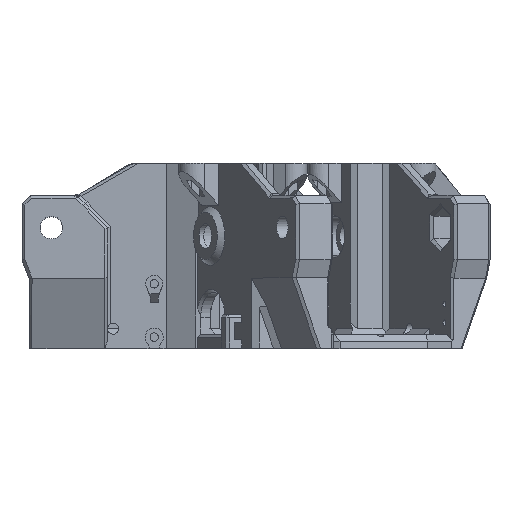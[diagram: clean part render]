
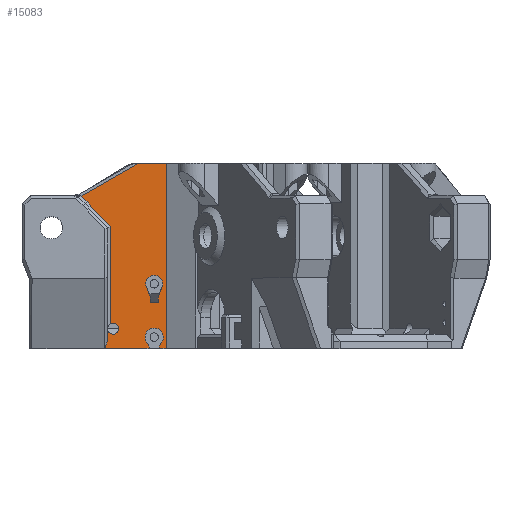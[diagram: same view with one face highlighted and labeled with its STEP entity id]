
A CAD part, top view. The second image highlights one B-rep face of the part: STEP entity #15083.
In plain terms, the highlighted planar face has unit normal (0, 0, 1).
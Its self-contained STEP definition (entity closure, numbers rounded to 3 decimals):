
#295=CIRCLE('',#16019,2.);
#296=CIRCLE('',#16020,3.25);
#297=CIRCLE('',#16021,3.);
#460=FACE_BOUND('',#2841,.T.);
#1104=PLANE('',#16018);
#1891=FACE_OUTER_BOUND('',#2840,.T.);
#2840=EDGE_LOOP('',(#13805,#13806,#13807,#13808,#13809,#13810,#13811,#13812,
#13813,#13814,#13815,#13816,#13817,#13818,#13819,#13820));
#2841=EDGE_LOOP('',(#13821,#13822,#13823,#13824,#13825,#13826));
#3457=LINE('',#22009,#5258);
#3461=LINE('',#22017,#5262);
#3945=LINE('',#23886,#5746);
#4163=LINE('',#24383,#5964);
#4444=LINE('',#25107,#6245);
#4448=LINE('',#25115,#6249);
#4461=LINE('',#25141,#6262);
#4488=LINE('',#25228,#6289);
#4491=LINE('',#25232,#6292);
#4709=LINE('',#25725,#6510);
#4713=LINE('',#25733,#6514);
#4717=LINE('',#25745,#6518);
#4719=LINE('',#25748,#6520);
#4720=LINE('',#25752,#6521);
#4721=LINE('',#25754,#6522);
#4722=LINE('',#25756,#6523);
#4723=LINE('',#25760,#6524);
#4724=LINE('',#25761,#6525);
#4725=LINE('',#25763,#6526);
#5258=VECTOR('',#16929,10.);
#5262=VECTOR('',#16933,10.);
#5746=VECTOR('',#17759,10.);
#5964=VECTOR('',#18187,10.);
#6245=VECTOR('',#18932,10.);
#6249=VECTOR('',#18938,10.);
#6262=VECTOR('',#18961,10.);
#6289=VECTOR('',#19006,10.);
#6292=VECTOR('',#19011,10.);
#6510=VECTOR('',#19493,10.);
#6514=VECTOR('',#19499,10.);
#6518=VECTOR('',#19511,10.);
#6520=VECTOR('',#19515,10.);
#6521=VECTOR('',#19520,10.);
#6522=VECTOR('',#19521,10.);
#6523=VECTOR('',#19522,10.);
#6524=VECTOR('',#19525,10.);
#6525=VECTOR('',#19526,10.);
#6526=VECTOR('',#19529,10.);
#6701=VERTEX_POINT('',#20061);
#7071=VERTEX_POINT('',#22006);
#7072=VERTEX_POINT('',#22008);
#7075=VERTEX_POINT('',#22014);
#7076=VERTEX_POINT('',#22016);
#7500=VERTEX_POINT('',#23883);
#7501=VERTEX_POINT('',#23885);
#7795=VERTEX_POINT('',#25104);
#7796=VERTEX_POINT('',#25106);
#7799=VERTEX_POINT('',#25114);
#7807=VERTEX_POINT('',#25140);
#7964=VERTEX_POINT('',#25722);
#7965=VERTEX_POINT('',#25724);
#7967=VERTEX_POINT('',#25730);
#7968=VERTEX_POINT('',#25732);
#7971=VERTEX_POINT('',#25742);
#7972=VERTEX_POINT('',#25744);
#7973=VERTEX_POINT('',#25750);
#7974=VERTEX_POINT('',#25753);
#7975=VERTEX_POINT('',#25755);
#7976=VERTEX_POINT('',#25757);
#7977=VERTEX_POINT('',#25759);
#8551=EDGE_CURVE('',#7072,#7071,#3457,.T.);
#8555=EDGE_CURVE('',#7076,#7075,#3461,.T.);
#9144=EDGE_CURVE('',#7501,#7500,#3945,.T.);
#9396=EDGE_CURVE('',#7501,#7071,#4163,.T.);
#9707=EDGE_CURVE('',#7795,#7796,#4444,.T.);
#9711=EDGE_CURVE('',#7076,#7799,#4448,.F.);
#9724=EDGE_CURVE('',#7796,#7807,#4461,.T.);
#9751=EDGE_CURVE('',#7807,#6701,#4488,.T.);
#9754=EDGE_CURVE('',#6701,#7500,#4491,.T.);
#9992=EDGE_CURVE('',#7965,#7964,#4709,.T.);
#9996=EDGE_CURVE('',#7968,#7967,#4713,.T.);
#10002=EDGE_CURVE('',#7972,#7971,#4717,.T.);
#10004=EDGE_CURVE('',#7964,#7968,#4719,.T.);
#10005=EDGE_CURVE('',#7795,#7973,#295,.T.);
#10006=EDGE_CURVE('',#7973,#7799,#4720,.T.);
#10007=EDGE_CURVE('',#7075,#7974,#4721,.T.);
#10008=EDGE_CURVE('',#7974,#7975,#4722,.T.);
#10009=EDGE_CURVE('',#7975,#7976,#296,.T.);
#10010=EDGE_CURVE('',#7976,#7977,#4723,.T.);
#10011=EDGE_CURVE('',#7977,#7072,#4724,.T.);
#10012=EDGE_CURVE('',#7967,#7972,#297,.T.);
#10013=EDGE_CURVE('',#7971,#7965,#4725,.T.);
#13805=ORIENTED_EDGE('',*,*,#9707,.F.);
#13806=ORIENTED_EDGE('',*,*,#10005,.T.);
#13807=ORIENTED_EDGE('',*,*,#10006,.T.);
#13808=ORIENTED_EDGE('',*,*,#9711,.F.);
#13809=ORIENTED_EDGE('',*,*,#8555,.T.);
#13810=ORIENTED_EDGE('',*,*,#10007,.T.);
#13811=ORIENTED_EDGE('',*,*,#10008,.T.);
#13812=ORIENTED_EDGE('',*,*,#10009,.T.);
#13813=ORIENTED_EDGE('',*,*,#10010,.T.);
#13814=ORIENTED_EDGE('',*,*,#10011,.T.);
#13815=ORIENTED_EDGE('',*,*,#8551,.T.);
#13816=ORIENTED_EDGE('',*,*,#9396,.F.);
#13817=ORIENTED_EDGE('',*,*,#9144,.T.);
#13818=ORIENTED_EDGE('',*,*,#9754,.F.);
#13819=ORIENTED_EDGE('',*,*,#9751,.F.);
#13820=ORIENTED_EDGE('',*,*,#9724,.F.);
#13821=ORIENTED_EDGE('',*,*,#9996,.T.);
#13822=ORIENTED_EDGE('',*,*,#10012,.T.);
#13823=ORIENTED_EDGE('',*,*,#10002,.T.);
#13824=ORIENTED_EDGE('',*,*,#10013,.T.);
#13825=ORIENTED_EDGE('',*,*,#9992,.T.);
#13826=ORIENTED_EDGE('',*,*,#10004,.T.);
#15083=ADVANCED_FACE('',(#1891,#460),#1104,.T.);
#16018=AXIS2_PLACEMENT_3D('',#25749,#19516,#19517);
#16019=AXIS2_PLACEMENT_3D('',#25751,#19518,#19519);
#16020=AXIS2_PLACEMENT_3D('',#25758,#19523,#19524);
#16021=AXIS2_PLACEMENT_3D('',#25762,#19527,#19528);
#16929=DIRECTION('',(1.,0.,0.));
#16933=DIRECTION('',(1.,0.,0.));
#17759=DIRECTION('',(-1.,0.,0.));
#18187=DIRECTION('',(0.,-1.,0.));
#18932=DIRECTION('',(0.,1.,0.));
#18938=DIRECTION('',(-0.348,-0.937,0.));
#18961=DIRECTION('',(-0.685,0.728,0.));
#19006=DIRECTION('',(-0.707,0.707,0.));
#19011=DIRECTION('',(0.867,0.498,0.));
#19493=DIRECTION('',(-1.,0.,0.));
#19499=DIRECTION('',(-0.342,0.94,0.));
#19511=DIRECTION('',(-0.342,-0.94,0.));
#19515=DIRECTION('',(0.,1.,0.));
#19516=DIRECTION('center_axis',(0.,0.,1.));
#19517=DIRECTION('ref_axis',(1.,0.,0.));
#19518=DIRECTION('center_axis',(0.,0.,-1.));
#19519=DIRECTION('ref_axis',(-1.,0.,0.));
#19520=DIRECTION('',(0.,-1.,0.));
#19521=DIRECTION('',(0.,1.,0.));
#19522=DIRECTION('',(-0.444,0.896,0.));
#19523=DIRECTION('center_axis',(0.,0.,-1.));
#19524=DIRECTION('ref_axis',(-1.,0.,0.));
#19525=DIRECTION('',(-0.444,-0.896,0.));
#19526=DIRECTION('',(0.,-1.,0.));
#19527=DIRECTION('center_axis',(0.,0.,-1.));
#19528=DIRECTION('ref_axis',(-1.,0.,0.));
#19529=DIRECTION('',(0.,-1.,0.));
#20061=CARTESIAN_POINT('',(10.63,11.284,0.));
#22006=CARTESIAN_POINT('',(41.,-43.,0.));
#22008=CARTESIAN_POINT('',(38.15,-43.,0.));
#22009=CARTESIAN_POINT('',(-8.,-43.,0.));
#22014=CARTESIAN_POINT('',(35.15,-43.,0.));
#22016=CARTESIAN_POINT('',(19.,-43.,0.));
#22017=CARTESIAN_POINT('',(-8.,-43.,0.));
#23883=CARTESIAN_POINT('',(31.006,23.,0.));
#23885=CARTESIAN_POINT('',(41.,23.,0.));
#23886=CARTESIAN_POINT('',(60.,23.,0.));
#24383=CARTESIAN_POINT('',(41.,5.287,0.));
#25104=CARTESIAN_POINT('',(21.,-34.268,0.));
#25106=CARTESIAN_POINT('',(21.,0.397,0.));
#25107=CARTESIAN_POINT('',(21.,-18.704,0.));
#25114=CARTESIAN_POINT('',(20.,-40.307,0.));
#25115=CARTESIAN_POINT('',(28.012,-18.734,0.));
#25140=CARTESIAN_POINT('',(12.718,9.196,0.));
#25141=CARTESIAN_POINT('',(21.767,-0.419,0.));
#25228=CARTESIAN_POINT('',(21.252,0.662,0.));
#25232=CARTESIAN_POINT('',(21.563,17.57,0.));
#25722=CARTESIAN_POINT('',(35.15,-26.598,0.));
#25724=CARTESIAN_POINT('',(38.15,-26.598,0.));
#25725=CARTESIAN_POINT('',(33.201,-26.598,0.));
#25730=CARTESIAN_POINT('',(33.832,-21.028,0.));
#25732=CARTESIAN_POINT('',(35.15,-24.648,0.));
#25733=CARTESIAN_POINT('',(32.452,-17.239,0.));
#25742=CARTESIAN_POINT('',(38.15,-24.648,0.));
#25744=CARTESIAN_POINT('',(39.468,-21.028,0.));
#25745=CARTESIAN_POINT('',(39.865,-19.939,0.));
#25748=CARTESIAN_POINT('',(35.15,-19.512,0.));
#25749=CARTESIAN_POINT('Origin',(28.253,-12.426,0.));
#25750=CARTESIAN_POINT('',(20.,-36.,0.));
#25751=CARTESIAN_POINT('Origin',(22.,-36.,0.));
#25752=CARTESIAN_POINT('',(20.,-6.213,0.));
#25753=CARTESIAN_POINT('',(35.15,-42.983,0.));
#25754=CARTESIAN_POINT('',(35.15,-27.713,0.));
#25755=CARTESIAN_POINT('',(34.274,-41.218,0.));
#25756=CARTESIAN_POINT('',(28.168,-28.908,0.));
#25757=CARTESIAN_POINT('',(39.026,-41.218,0.));
#25758=CARTESIAN_POINT('Origin',(36.65,-39.,0.));
#25759=CARTESIAN_POINT('',(38.15,-42.983,0.));
#25760=CARTESIAN_POINT('',(43.474,-32.251,0.));
#25761=CARTESIAN_POINT('',(38.15,-27.155,0.));
#25762=CARTESIAN_POINT('Origin',(36.65,-20.,0.));
#25763=CARTESIAN_POINT('',(38.15,-17.512,0.));
